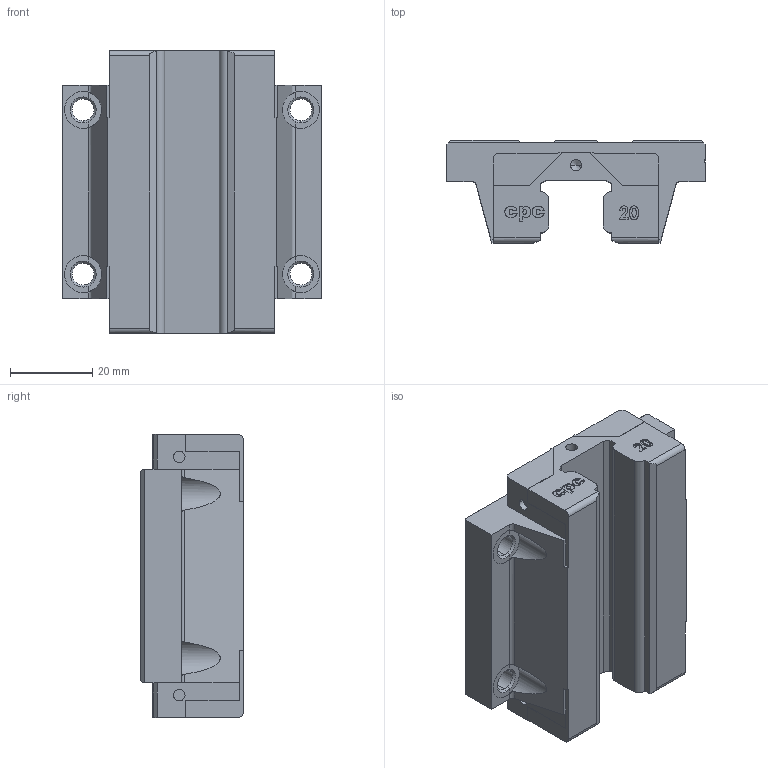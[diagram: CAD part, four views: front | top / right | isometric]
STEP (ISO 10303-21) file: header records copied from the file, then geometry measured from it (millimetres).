
FILE_DESCRIPTION (( 'STEP AP214' ), '1' );
FILE_NAME ('HRC20FN-block-X2.STEP', '2018-02-06T02:49:46', ( '' ), ( '' ), 'SwSTEP 2.0', 'SolidWorks 2010', '' );
FILE_SCHEMA (( 'AUTOMOTIVE_DESIGN' ));
Length unit declared in the file: millimetre
Products named in the file (1): HRC20FN-block-X2
Bounding box: 63 x 25 x 69 mm (x, y, z)
Volume: 65072.8 mm3; surface area: 16078 mm2
Topology: 1 solids, 1 shells, 312 faces, 832 edges, 538 vertices
Faces by surface type: plane 147, bspline 90, cylinder 47, cone 28
Entity records: 17624 total; most frequent: CARTESIAN_POINT 10121, ORIENTED_EDGE 1656, DIRECTION 1200, EDGE_CURVE 828, VERTEX_POINT 538, VECTOR 510, LINE 510, AXIS2_PLACEMENT_3D 345
